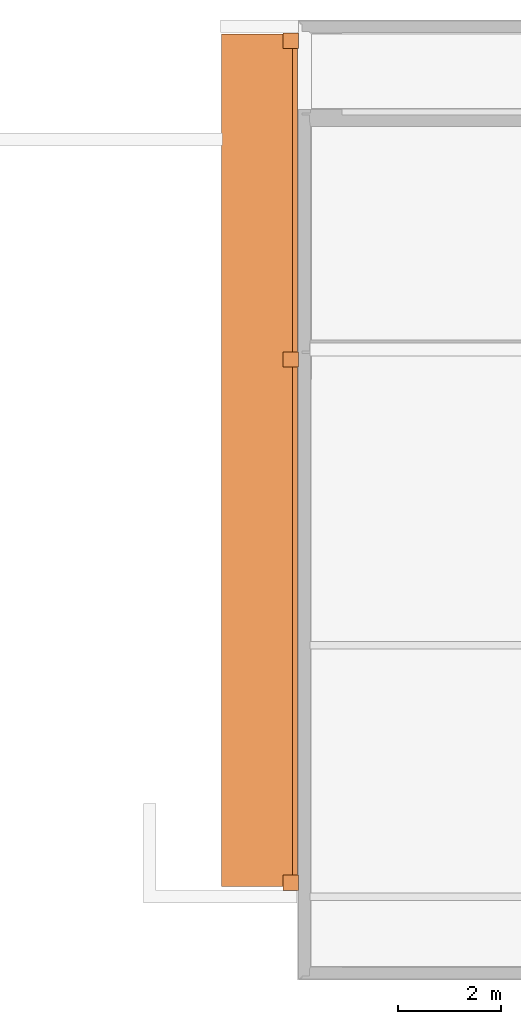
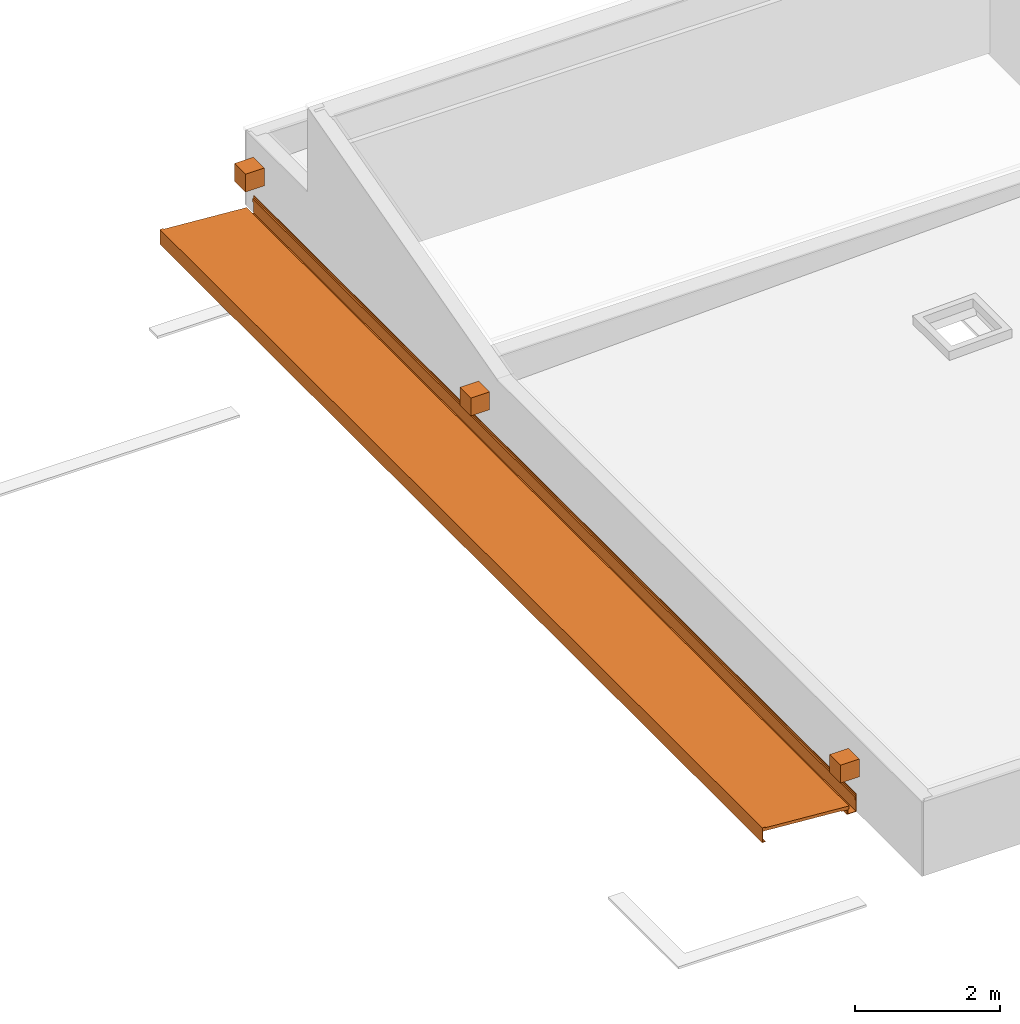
# One storey, part 8 of 8: 4 proxies.
"""IFC2X3 building model written with IfcOpenShell, lengths in metres."""

from ifc_helpers import new_model, entity, si_unit, converted_unit, derived_unit, direction, frame, frame_2d, origin, place, context, subcontext, project, spatial, polyline, rectangle, outline, extrude, source, transform, mapped, material, type_object, type_shapes, element, save


model = new_model("IFC2X3")

# Units and contexts
model_context = context("Model", 3, precision=1e-05, world=origin(), true_north=direction((6.123031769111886e-17, 1.0)))
body_context = subcontext(model_context, "Body", "Model", "MODEL_VIEW")
ifc_project = project(units=[si_unit("LENGTHUNIT", "METRE"), si_unit("AREAUNIT", "SQUARE_METRE"), si_unit("VOLUMEUNIT", "CUBIC_METRE"), converted_unit("PLANEANGLEUNIT", "DEGREE", entity("IfcRatioMeasure", 0.017453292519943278), si_unit("PLANEANGLEUNIT", "RADIAN"), dimensions=[0, 0, 0, 0, 0, 0, 0]), si_unit("MASSUNIT", "GRAM", prefix="KILO"), derived_unit("MASSDENSITYUNIT", [(si_unit("MASSUNIT", "GRAM", prefix="KILO"), 1), (si_unit("LENGTHUNIT", "METRE"), -3)]), derived_unit("MOMENTOFINERTIAUNIT", [(si_unit("LENGTHUNIT", "METRE"), 4)]), si_unit("TIMEUNIT", "SECOND"), si_unit("FREQUENCYUNIT", "HERTZ"), si_unit("THERMODYNAMICTEMPERATUREUNIT", "DEGREE_CELSIUS"), derived_unit("THERMALTRANSMITTANCEUNIT", [(si_unit("MASSUNIT", "GRAM", prefix="KILO"), 1), (si_unit("THERMODYNAMICTEMPERATUREUNIT", "KELVIN"), -1), (si_unit("TIMEUNIT", "SECOND"), -3)]), derived_unit("THERMALCONDUCTANCEUNIT", [(si_unit("MASSUNIT", "GRAM", prefix="KILO"), 1), (si_unit("LENGTHUNIT", "METRE"), 1), (si_unit("THERMODYNAMICTEMPERATUREUNIT", "KELVIN"), -1), (si_unit("TIMEUNIT", "SECOND"), -3)]), derived_unit("VOLUMETRICFLOWRATEUNIT", [(si_unit("LENGTHUNIT", "METRE"), 3), (si_unit("TIMEUNIT", "SECOND"), -1)]), derived_unit("MASSFLOWRATEUNIT", [(si_unit("MASSUNIT", "GRAM", prefix="KILO"), 1), (si_unit("TIMEUNIT", "SECOND"), -1)]), derived_unit("ROTATIONALFREQUENCYUNIT", [(si_unit("TIMEUNIT", "SECOND"), -1)]), si_unit("ELECTRICCURRENTUNIT", "AMPERE"), si_unit("ELECTRICVOLTAGEUNIT", "VOLT"), si_unit("POWERUNIT", "WATT"), si_unit("FORCEUNIT", "NEWTON", prefix="KILO"), si_unit("ILLUMINANCEUNIT", "LUX"), si_unit("LUMINOUSFLUXUNIT", "LUMEN"), si_unit("LUMINOUSINTENSITYUNIT", "CANDELA"), derived_unit("USERDEFINED", [(si_unit("MASSUNIT", "GRAM", prefix="KILO"), -1), (si_unit("LENGTHUNIT", "METRE"), -2), (si_unit("TIMEUNIT", "SECOND"), 3), (si_unit("LUMINOUSFLUXUNIT", "LUMEN"), 1)]), derived_unit("USERDEFINED", [(si_unit("MASSUNIT", "GRAM", prefix="KILO"), 1), (si_unit("LENGTHUNIT", "METRE"), 3), (si_unit("TIMEUNIT", "SECOND"), -3), (si_unit("ELECTRICCURRENTUNIT", "AMPERE"), -2)]), derived_unit("USERDEFINED", [(si_unit("LENGTHUNIT", "METRE"), 2), (si_unit("TIMEUNIT", "SECOND"), -2)]), derived_unit("SOUNDPOWERUNIT", [(si_unit("MASSUNIT", "GRAM", prefix="KILO"), 1), (si_unit("LENGTHUNIT", "METRE"), 2), (si_unit("TIMEUNIT", "SECOND"), -3)]), derived_unit("SOUNDPRESSUREUNIT", [(si_unit("MASSUNIT", "GRAM", prefix="KILO"), 1), (si_unit("LENGTHUNIT", "METRE"), -1), (si_unit("TIMEUNIT", "SECOND"), -2)]), derived_unit("LINEARVELOCITYUNIT", [(si_unit("LENGTHUNIT", "METRE"), 1), (si_unit("TIMEUNIT", "SECOND"), -1)]), si_unit("PRESSUREUNIT", "PASCAL"), derived_unit("USERDEFINED", [(si_unit("LENGTHUNIT", "METRE"), -2), (si_unit("MASSUNIT", "GRAM", prefix="KILO"), 1), (si_unit("TIMEUNIT", "SECOND"), -2)]), derived_unit("LINEARFORCEUNIT", [(si_unit("MASSUNIT", "GRAM", prefix="KILO"), 1), (si_unit("LENGTHUNIT", "METRE"), 1), (si_unit("TIMEUNIT", "SECOND"), -2), (si_unit("LENGTHUNIT", "METRE"), -1)]), derived_unit("PLANARFORCEUNIT", [(si_unit("MASSUNIT", "GRAM", prefix="KILO"), 1), (si_unit("LENGTHUNIT", "METRE"), 1), (si_unit("TIMEUNIT", "SECOND"), -2), (si_unit("LENGTHUNIT", "METRE"), -2)]), derived_unit("SPECIFICHEATCAPACITYUNIT", [(si_unit("LENGTHUNIT", "METRE"), 2), (si_unit("TIMEUNIT", "SECOND"), -2), (si_unit("THERMODYNAMICTEMPERATUREUNIT", "KELVIN"), -1)]), derived_unit("VAPORPERMEABILITYUNIT", [(si_unit("TIMEUNIT", "SECOND"), 1), (si_unit("LENGTHUNIT", "METRE"), -1)]), derived_unit("DYNAMICVISCOSITYUNIT", [(si_unit("MASSUNIT", "GRAM", prefix="KILO"), 1), (si_unit("LENGTHUNIT", "METRE"), -1), (si_unit("TIMEUNIT", "SECOND"), -1)]), derived_unit("THERMALEXPANSIONCOEFFICIENTUNIT", [(si_unit("THERMODYNAMICTEMPERATUREUNIT", "KELVIN"), -1)])], contexts=[model_context])

# Site, building, storey
site_placement = place(None, origin())
site = spatial("IfcSite", under=ifc_project, at=site_placement, Name="Default", CompositionType="ELEMENT")
building_placement = place(site_placement, origin())
building = spatial("IfcBuilding", under=site, at=building_placement, CompositionType="ELEMENT")
storey_placement = place(building_placement, frame((0.0, 0.0, 6.059999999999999)))
storey = spatial("IfcBuildingStorey", under=building, at=storey_placement, Name="TOITURE", CompositionType="ELEMENT", Elevation=6.059999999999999)

# Proxies
ifc_material_1 = material(Name="Peinture - Gris foncé")
building_element_proxy_type_1 = type_object("IfcBuildingElementProxyType", Name="Poutre-016:Poutre-016", PredefinedType="NOTDEFINED", material=ifc_material_1)
shared_shape_1 = source(origin(), body_context, "Body", "SweptSolid", [
    extrude(outline(polyline([(0.011249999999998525, 0.0024999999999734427), (0.051249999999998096, 0.0024999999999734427), (0.051249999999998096, 0.01250000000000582), (0.001249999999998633, 0.01250000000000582), (-0.013750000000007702, -0.0025000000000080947), (-0.04875000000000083, -0.0025000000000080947), (-0.04875000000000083, -0.012500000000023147), (-0.0037499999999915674, -0.012500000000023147), (0.011249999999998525, 0.0024999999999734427)])), frame((141.38825236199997, 9.387209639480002, 7.0212499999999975), z_axis=(0.0, 1.0, 0.0), x_axis=(0.0, 0.0, -1.0)), (0.0, 0.0, 1.0), 16.5999998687),
    extrude(outline(polyline([(-0.017500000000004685, 0.11500000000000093), (0.022500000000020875, 0.11500000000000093), (0.022500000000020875, 0.12500000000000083), (-0.02750000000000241, 0.12500000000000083), (-0.02750000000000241, -0.12499999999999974), (0.022500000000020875, -0.12499999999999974), (0.022500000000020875, -0.11499999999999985), (-0.017500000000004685, -0.11499999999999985), (-0.017500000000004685, 0.11500000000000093)])), frame((139.928252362, 9.387209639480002, 6.895), z_axis=(0.0, 1.0, 0.0), x_axis=(1.0, 0.0, 0.0)), (0.0, 0.0, 1.0), 16.5999998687),
    extrude(outline(polyline([(-0.024999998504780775, -0.6850000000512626), (0.02500000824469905, -0.6850000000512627), (0.02499999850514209, 0.6850000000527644), (-0.025000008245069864, 0.6850000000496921), (-0.024999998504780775, -0.6850000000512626)])), frame((140.59570363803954, 9.387209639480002, 6.933698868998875), z_axis=(0.0, 1.0, 0.0), x_axis=(0.07478994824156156, 0.0, 0.997199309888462)), (0.0, 0.0, 1.0), 16.59999986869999),
    extrude(outline(polyline([(-0.008722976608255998, -0.1321668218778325), (0.001277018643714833, -0.1321668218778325), (0.0012770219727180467, -0.032166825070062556), (-0.0772524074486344, -0.026277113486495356), (-0.06752970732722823, 0.10335879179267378), (0.16182612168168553, 0.08615709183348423), (0.16257402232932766, 0.09612909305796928), (-0.07675380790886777, 0.1140786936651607), (-0.08797230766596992, -0.03550119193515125), (-0.008722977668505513, -0.04144489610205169), (-0.008722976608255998, -0.1321668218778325)])), frame((141.29273358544, 9.387209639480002, 6.855070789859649), z_axis=(0.0, 1.0, 0.0), x_axis=(0.07479000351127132, 0.0, 0.9971993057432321)), (0.0, 0.0, 1.0), 16.5999998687),
])
type_shapes(building_element_proxy_type_1, [shared_shape_1])
proxy_1_placement = place(storey_placement, frame((0.0, 0.0, -6.059999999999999)))
element("IfcBuildingElementProxy", 1, at=proxy_1_placement, inside=storey, type_object=building_element_proxy_type_1, material=ifc_material_1, Name="Poutre-016:Poutre-016", ObjectType="Poutre-016:Poutre-016", context=body_context, shape_type="MappedRepresentation", body=[
    mapped(shared_shape_1, transform((0.0, 0.0, 0.0), scale=1.0)),
])
ifc_material_2 = material(Name="Métal - Zinc")
building_element_proxy_type_2 = type_object("IfcBuildingElementProxyType", Name="Symb-0002", PredefinedType="NOTDEFINED", material=ifc_material_2)
shared_shape_2 = source(origin(), body_context, "Body", "SweptSolid", [
    extrude(rectangle(XDim=0.3000000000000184, YDim=0.29999999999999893, at=frame_2d((8.659739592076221e-15, 1.0824674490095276e-15), x_axis=(1.0, 0.0))), frame((141.25075227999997, 19.6472094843, 7.3999999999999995)), (0.0, 0.0, 1.0), 0.29999999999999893),
])
type_shapes(building_element_proxy_type_2, [shared_shape_2])
proxy_2_placement = place(storey_placement, frame((0.0, 0.0, -6.059999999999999)))
element("IfcBuildingElementProxy", 2, at=proxy_2_placement, inside=storey, type_object=building_element_proxy_type_2, material=ifc_material_2, Name="Symb-0002 824208:Symb-0002 824208", ObjectType="Symb-0002 824208:Symb-0002 824208", context=body_context, shape_type="MappedRepresentation", body=[
    mapped(shared_shape_2, transform((0.0, 0.0, 0.0), scale=1.0)),
])
building_element_proxy_type_3 = type_object("IfcBuildingElementProxyType", Name="Symb-0002", PredefinedType="NOTDEFINED", material=ifc_material_2)
shared_shape_3 = source(origin(), body_context, "Body", "SweptSolid", [
    extrude(rectangle(XDim=0.3000000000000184, YDim=0.3000000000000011, at=frame_2d((-8.659739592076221e-15, 0.0), x_axis=(1.0, 0.0))), frame((141.250752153, 9.46220948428, 7.3999999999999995)), (0.0, 0.0, 1.0), 0.29999999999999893),
])
type_shapes(building_element_proxy_type_3, [shared_shape_3])
proxy_3_placement = place(storey_placement, frame((0.0, 0.0, -6.059999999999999)))
element("IfcBuildingElementProxy", 3, at=proxy_3_placement, inside=storey, type_object=building_element_proxy_type_3, material=ifc_material_2, Name="Symb-0002 842974:Symb-0002 842974", ObjectType="Symb-0002 842974:Symb-0002 842974", context=body_context, shape_type="MappedRepresentation", body=[
    mapped(shared_shape_3, transform((0.0, 0.0, 0.0), scale=1.0)),
])
building_element_proxy_type_4 = type_object("IfcBuildingElementProxyType", Name="Symb-0002", PredefinedType="NOTDEFINED", material=ifc_material_2)
shared_shape_4 = source(origin(), body_context, "Body", "SweptSolid", [
    extrude(rectangle(XDim=0.3000000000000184, YDim=0.3000000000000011, at=frame_2d((8.659739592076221e-15, 0.0), x_axis=(1.0, 0.0))), frame((141.25075227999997, 25.8572094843, 7.3999999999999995)), (0.0, 0.0, 1.0), 0.29999999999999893),
])
type_shapes(building_element_proxy_type_4, [shared_shape_4])
proxy_4_placement = place(storey_placement, frame((0.0, 0.0, -6.059999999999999)))
element("IfcBuildingElementProxy", 4, at=proxy_4_placement, inside=storey, type_object=building_element_proxy_type_4, material=ifc_material_2, Name="Symb-0002 843032:Symb-0002 843032", ObjectType="Symb-0002 843032:Symb-0002 843032", context=body_context, shape_type="MappedRepresentation", body=[
    mapped(shared_shape_4, transform((0.0, 0.0, 0.0), scale=1.0)),
])

save(model, "model.ifc")
